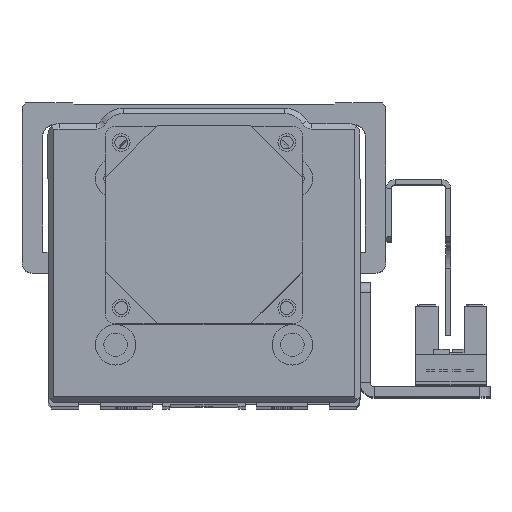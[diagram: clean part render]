
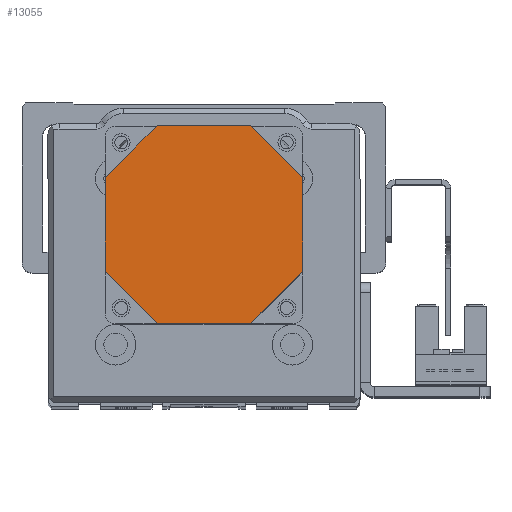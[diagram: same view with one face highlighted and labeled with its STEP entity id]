
A CAD part, top view. The second image highlights one B-rep face of the part: STEP entity #13055.
In plain terms, the highlighted planar face has unit normal (0, 0, 1) as drawn and (0, 0, -1) by its records, which use the part's own axes.
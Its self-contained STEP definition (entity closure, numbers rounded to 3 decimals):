
#521 = CARTESIAN_POINT ( 'NONE',  ( 19., 9., -84. ) ) ;
#530 = DIRECTION ( 'NONE',  ( 0., -1., 0. ) ) ;
#534 = CARTESIAN_POINT ( 'NONE',  ( -9., 19., -84. ) ) ;
#544 = DIRECTION ( 'NONE',  ( 0.707, 0.707, 0. ) ) ;
#555 = CARTESIAN_POINT ( 'NONE',  ( 19., -9., -84. ) ) ;
#556 = DIRECTION ( 'NONE',  ( -0.707, -0.707, 0. ) ) ;
#575 = DIRECTION ( 'NONE',  ( 1., 0., 0. ) ) ;
#591 = CARTESIAN_POINT ( 'NONE',  ( 9., 19., -84. ) ) ;
#614 = CARTESIAN_POINT ( 'NONE',  ( 9., -19., -84. ) ) ;
#620 = DIRECTION ( 'NONE',  ( -1., 0., 0. ) ) ;
#627 = CARTESIAN_POINT ( 'NONE',  ( -19., 9., -84. ) ) ;
#638 = DIRECTION ( 'NONE',  ( 0., 1., 0. ) ) ;
#657 = DIRECTION ( 'NONE',  ( 0.707, -0.707, 0. ) ) ;
#663 = DIRECTION ( 'NONE',  ( -0.707, 0.707, 0. ) ) ;
#677 = CARTESIAN_POINT ( 'NONE',  ( -9., -19., -84. ) ) ;
#678 = CARTESIAN_POINT ( 'NONE',  ( 19., 9., -84. ) ) ;
#1250 = AXIS2_PLACEMENT_3D ( 'NONE', #24617, #24635, #24639 ) ;
#7316 = VECTOR ( 'NONE', #575, 1000. ) ;
#7327 = LINE ( 'NONE', #555, #7329 ) ;
#7328 = LINE ( 'NONE', #534, #7349 ) ;
#7329 = VECTOR ( 'NONE', #556, 1000. ) ;
#7334 = LINE ( 'NONE', #521, #7352 ) ;
#7338 = LINE ( 'NONE', #591, #7316 ) ;
#7349 = VECTOR ( 'NONE', #544, 1000. ) ;
#7352 = VECTOR ( 'NONE', #530, 1000. ) ;
#7373 = LINE ( 'NONE', #627, #7425 ) ;
#7382 = LINE ( 'NONE', #678, #7424 ) ;
#7403 = LINE ( 'NONE', #677, #7404 ) ;
#7404 = VECTOR ( 'NONE', #663, 1000. ) ;
#7409 = VECTOR ( 'NONE', #620, 1000. ) ;
#7416 = LINE ( 'NONE', #614, #7409 ) ;
#7424 = VECTOR ( 'NONE', #657, 1000. ) ;
#7425 = VECTOR ( 'NONE', #638, 1000. ) ;
#9528 = EDGE_CURVE ( 'NONE', #12178, #12145, #7334, .T. ) ;
#9531 = EDGE_CURVE ( 'NONE', #12188, #12197, #7328, .T. ) ;
#9532 = EDGE_CURVE ( 'NONE', #12145, #12214, #7327, .T. ) ;
#9543 = EDGE_CURVE ( 'NONE', #12197, #12207, #7338, .T. ) ;
#9561 = EDGE_CURVE ( 'NONE', #12214, #12184, #7416, .T. ) ;
#9569 = EDGE_CURVE ( 'NONE', #12113, #12188, #7373, .T. ) ;
#9573 = EDGE_CURVE ( 'NONE', #12184, #12113, #7403, .T. ) ;
#9577 = EDGE_CURVE ( 'NONE', #12207, #12178, #7382, .T. ) ;
#12113 = VERTEX_POINT ( 'NONE', #23924 ) ;
#12145 = VERTEX_POINT ( 'NONE', #23942 ) ;
#12178 = VERTEX_POINT ( 'NONE', #24037 ) ;
#12184 = VERTEX_POINT ( 'NONE', #24016 ) ;
#12188 = VERTEX_POINT ( 'NONE', #24018 ) ;
#12197 = VERTEX_POINT ( 'NONE', #23983 ) ;
#12207 = VERTEX_POINT ( 'NONE', #24012 ) ;
#12214 = VERTEX_POINT ( 'NONE', #24081 ) ;
#13055 = ADVANCED_FACE ( 'NONE', ( #23085 ), #24648, .F. ) ;
#15303 = ORIENTED_EDGE ( 'NONE', *, *, #9528, .T. ) ;
#15317 = ORIENTED_EDGE ( 'NONE', *, *, #9577, .T. ) ;
#15320 = ORIENTED_EDGE ( 'NONE', *, *, #9573, .T. ) ;
#15321 = ORIENTED_EDGE ( 'NONE', *, *, #9569, .T. ) ;
#15342 = ORIENTED_EDGE ( 'NONE', *, *, #9561, .T. ) ;
#15348 = ORIENTED_EDGE ( 'NONE', *, *, #9543, .T. ) ;
#15352 = ORIENTED_EDGE ( 'NONE', *, *, #9531, .T. ) ;
#15363 = ORIENTED_EDGE ( 'NONE', *, *, #9532, .T. ) ;
#16827 = EDGE_LOOP ( 'NONE', ( #15320, #15321, #15352, #15348, #15317, #15303, #15363, #15342 ) ) ;
#23085 = FACE_OUTER_BOUND ( 'NONE', #16827, .T. ) ;
#23924 = CARTESIAN_POINT ( 'NONE',  ( -19., -9., -84. ) ) ;
#23942 = CARTESIAN_POINT ( 'NONE',  ( 19., -9., -84. ) ) ;
#23983 = CARTESIAN_POINT ( 'NONE',  ( -9., 19., -84. ) ) ;
#24012 = CARTESIAN_POINT ( 'NONE',  ( 9., 19., -84. ) ) ;
#24016 = CARTESIAN_POINT ( 'NONE',  ( -9., -19., -84. ) ) ;
#24018 = CARTESIAN_POINT ( 'NONE',  ( -19., 9., -84. ) ) ;
#24037 = CARTESIAN_POINT ( 'NONE',  ( 19., 9., -84. ) ) ;
#24081 = CARTESIAN_POINT ( 'NONE',  ( 9., -19., -84. ) ) ;
#24617 = CARTESIAN_POINT ( 'NONE',  ( 0., 0., -84. ) ) ;
#24635 = DIRECTION ( 'NONE',  ( 0., 0., 1. ) ) ;
#24639 = DIRECTION ( 'NONE',  ( 1., 0., 0. ) ) ;
#24648 = PLANE ( 'NONE',  #1250 ) ;
